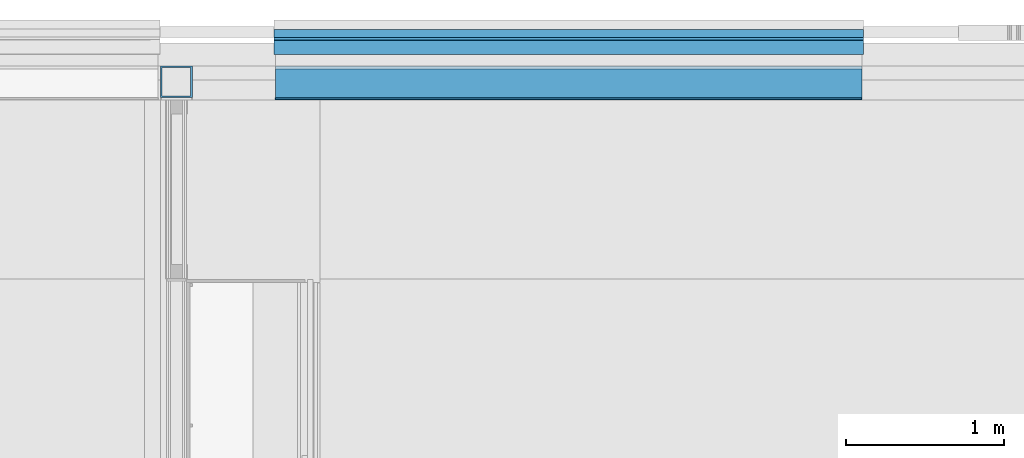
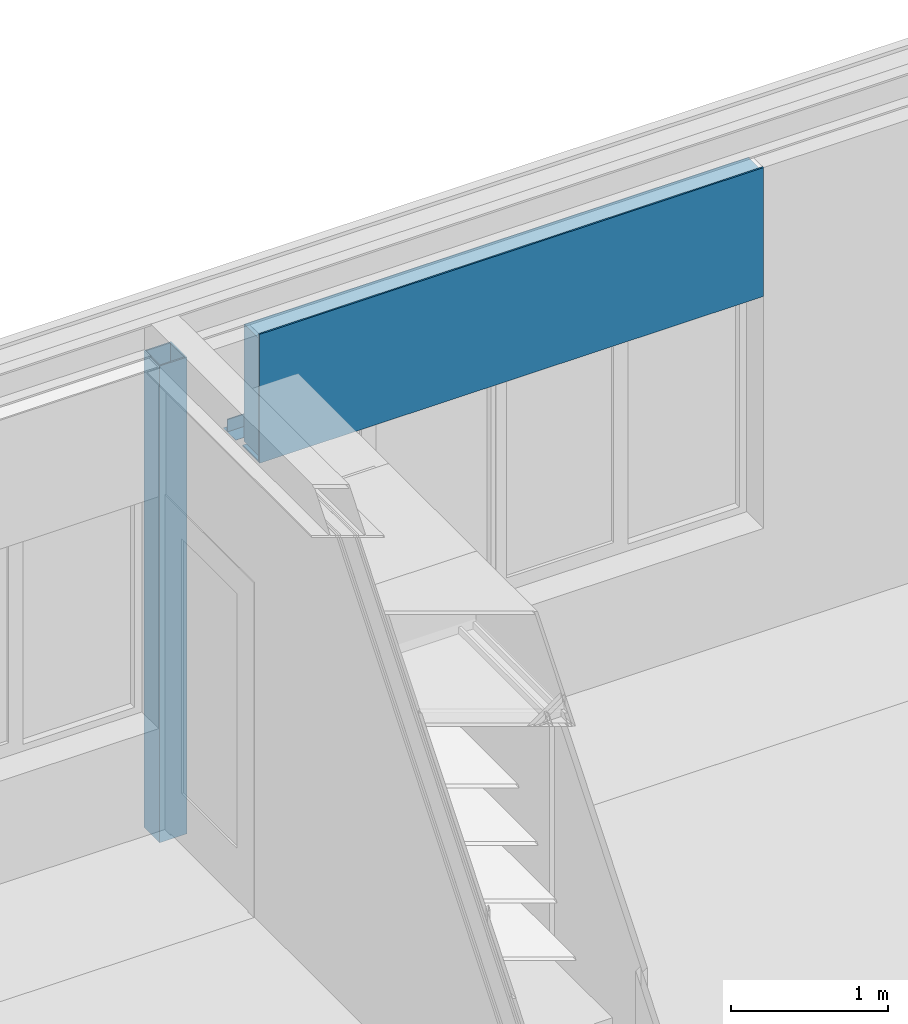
# One storey, part 82 of 137: 6 building element parts, 3 elements without a shape of their own.
"""IFC2X3 building model written with IfcOpenShell, lengths in millimetres."""

from ifc_helpers import new_model, entity, si_unit, converted_unit, derived_unit, money_unit, direction, frame, origin_with_axes, place, context, subcontext, project, spatial, faceted_brep, material, type_object, element, aggregate, save


model = new_model("IFC2X3")

# Units and contexts
model_context = context("Model", 3, precision=0.01, world=origin_with_axes(), true_north=direction((0.0, 1.0)))
body_context = subcontext(model_context, "Body", "Model", "MODEL_VIEW")
ifc_project = project(units=[si_unit("LENGTHUNIT", "METRE", prefix="MILLI"), si_unit("AREAUNIT", "SQUARE_METRE"), si_unit("VOLUMEUNIT", "CUBIC_METRE"), converted_unit("PLANEANGLEUNIT", "DEGREE", entity("IfcPlaneAngleMeasure", 0.0174532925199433), si_unit("PLANEANGLEUNIT", "RADIAN"), dimensions=[0, 0, 0, 0, 0, 0, 0]), money_unit("EUR"), converted_unit("TIMEUNIT", "Year", entity("IfcTimeMeasure", 31556926.0), si_unit("TIMEUNIT", "SECOND"), dimensions=[0, 0, 1, 0, 0, 0, 0]), si_unit("MASSUNIT", "GRAM", prefix="KILO"), si_unit("THERMODYNAMICTEMPERATUREUNIT", "DEGREE_CELSIUS"), si_unit("LUMINOUSINTENSITYUNIT", "LUMEN"), si_unit("ENERGYUNIT", "JOULE", prefix="MEGA"), derived_unit("THERMALCONDUCTANCEUNIT", [(si_unit("POWERUNIT", "WATT"), 1), (si_unit("LENGTHUNIT", "METRE"), -1), (si_unit("THERMODYNAMICTEMPERATUREUNIT", "KELVIN"), -1)]), derived_unit("SPECIFICHEATCAPACITYUNIT", [(si_unit("ENERGYUNIT", "JOULE"), 1), (si_unit("MASSUNIT", "GRAM", prefix="KILO"), -1), (si_unit("THERMODYNAMICTEMPERATUREUNIT", "KELVIN"), -1)]), derived_unit("MASSDENSITYUNIT", [(si_unit("MASSUNIT", "GRAM", prefix="KILO"), 1), (si_unit("VOLUMEUNIT", "CUBIC_METRE"), -1)])], contexts=[model_context])

# Site, building, storey
site_placement = place(None, origin_with_axes())
site = spatial("IfcSite", under=ifc_project, at=site_placement, Name="Site", CompositionType="ELEMENT")
building_placement = place(site_placement, origin_with_axes())
building = spatial("IfcBuilding", under=site, at=building_placement, Name="Naam gebouw", CompositionType="ELEMENT")
storey_placement = place(building_placement, frame((0.0, 0.0, 3960.0), z_axis=(0.0, 0.0, 1.0), x_axis=(1.0, 0.0, 0.0)))
storey = spatial("IfcBuildingStorey", under=building, at=storey_placement, Name="1e verdieping", CompositionType="ELEMENT", Elevation=3960.0)

# Column, building element part
column_type = type_object("IfcColumnType", Name="200X200X10 200 x 200", PredefinedType="COLUMN")
column_placement = place(storey_placement, frame((8850.000000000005, 29075.0, -100.0000000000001), z_axis=(0.0, 0.0, 1.0), x_axis=(1.0, 0.0, 0.0)))
column = element("IfcColumn", 1, at=column_placement, inside=storey, type_object=column_type, Name="28_Kolom-x", ObjectType="COLUMN")
ifc_material_1 = material(Name="Metaal - Staal C")
building_element_part_1_placement = place(column_placement, origin_with_axes())
building_element_part_1 = element("IfcBuildingElementPart", 2, at=building_element_part_1_placement, material=ifc_material_1, Name="Metaal - Staal C", context=body_context, shape_type="Brep", body=[
    faceted_brep([(-99.99999999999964, -100.0000000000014, 0.0), (99.99999999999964, -100.0000000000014, 0.0), (99.99999999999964, -100.0000000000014, 3699.999999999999), (-99.99999999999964, -100.0000000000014, 3699.999999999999), (-99.99999999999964, 100.0000000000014, 0.0), (99.99999999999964, 100.0000000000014, 0.0), (-89.99999999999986, -89.99999999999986, 0.0), (89.99999999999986, -89.99999999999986, 0.0), (89.99999999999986, 89.99999999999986, 0.0), (-89.99999999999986, 89.99999999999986, 0.0), (99.99999999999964, 100.0000000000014, 3699.999999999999), (-99.99999999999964, 100.0000000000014, 3699.999999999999), (-89.99999999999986, -89.99999999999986, 3699.999999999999), (-89.99999999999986, 89.99999999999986, 3699.999999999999), (89.99999999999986, 89.99999999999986, 3699.999999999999), (89.99999999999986, -89.99999999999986, 3699.999999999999)], [[[0, 1, 2, 3]], [[0, 4, 5, 1], [6, 7, 8, 9]], [[1, 5, 10, 2]], [[3, 2, 10, 11], [12, 13, 14, 15]], [[4, 0, 3, 11]], [[5, 4, 11, 10]], [[7, 6, 12, 15]], [[8, 7, 15, 14]], [[9, 8, 14, 13]], [[6, 9, 13, 12]]]),
])
aggregate(column, [building_element_part_1])

# Beam, building element parts
beam_type_1 = type_object("IfcBeamType", Name="41 Latei/geveldrager 158 x 112", PredefinedType="BEAM")
beam_1_placement = place(storey_placement, frame((9464.999424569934, 29354.99997630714, 2610.0), z_axis=(0.0, 0.0, 1.0), x_axis=(0.0, -1.0, 0.0)))
beam_1 = element("IfcBeam", 3, at=beam_1_placement, inside=storey, type_object=beam_type_1, Name="_Regenwaterafvoer-x", ObjectType="BEAM")
building_element_part_2_placement = place(beam_1_placement, origin_with_axes())
building_element_part_2 = element("IfcBuildingElementPart", 4, at=building_element_part_2_placement, material=ifc_material_1, Name="Metaal - Staal C", context=body_context, shape_type="Brep", body=[
    faceted_brep([(-50.00000000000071, 3720.0, 6.55651533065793e-07), (-50.00000000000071, 3720.0, -3.000000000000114), (-50.00000000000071, 0.0, -3.000000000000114), (-50.00000000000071, 0.0, 6.55651533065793e-07), (-5.9603877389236e-08, 3720.0, 6.55651533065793e-07), (-5.9603877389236e-08, 3720.0, 99.3417707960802), (16.54654975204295, 3720.0, 108.8949262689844), (18.04655007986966, 3720.0, 106.2968498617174), (3.000000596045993, 3720.0, 96.99999988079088), (3.000000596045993, 3720.0, 6.55651533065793e-07), (3.000000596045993, 3720.0, -3.000000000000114), (3.000000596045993, 0.0, -3.000000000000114), (3.000000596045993, 0.0, 6.55651533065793e-07), (3.000000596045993, 0.0, 96.99999988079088), (18.04655007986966, 0.0, 106.2968498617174), (16.54654975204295, 0.0, 108.8949262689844), (-5.9603877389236e-08, 0.0, 99.3417707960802), (-5.9603877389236e-08, 0.0, 6.55651533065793e-07)], [[[0, 1, 2, 3]], [[0, 4, 5, 6, 7, 8, 9, 10, 1]], [[1, 10, 11, 2]], [[3, 2, 11, 12, 13, 14, 15, 16, 17]], [[4, 0, 3, 17]], [[5, 4, 17, 16]], [[6, 5, 16, 15]], [[7, 6, 15, 14]], [[8, 7, 14, 13]], [[9, 8, 13, 12]], [[10, 9, 12, 11]]]),
])
building_element_part_3_placement = place(beam_1_placement, origin_with_axes())
building_element_part_3 = element("IfcBuildingElementPart", 5, at=building_element_part_3_placement, material=ifc_material_1, Name="Metaal - Staal C", context=body_context, shape_type="Brep", body=[
    faceted_brep([(3.000000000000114, 3720.0, -3.000000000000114), (108.0000000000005, 3720.0, -3.000000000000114), (108.0000000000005, 0.0, -3.000000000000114), (3.000000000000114, 0.0, -3.000000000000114), (3.000000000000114, 3720.0, 0.0), (108.0000000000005, 3720.0, 0.0), (108.0000000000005, 0.0, 0.0), (3.000000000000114, 0.0, 0.0)], [[[0, 1, 2, 3]], [[0, 4, 5, 1]], [[1, 5, 6, 2]], [[3, 2, 6, 7]], [[4, 0, 3, 7]], [[5, 4, 7, 6]]]),
])
aggregate(beam_1, [building_element_part_2, building_element_part_3])

beam_type_2 = type_object("IfcBeamType", Name="31 HSB boven kozijnen 214 x 1000", PredefinedType="BEAM")
beam_2_placement = place(storey_placement, frame((9474.999424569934, 28961.0, 2600.000000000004), z_axis=(0.0, 0.0, 1.0), x_axis=(0.0, -1.0, 0.0)))
beam_2 = element("IfcBeam", 6, at=beam_2_placement, inside=storey, type_object=beam_type_2, Name="28_Balk-x", ObjectType="BEAM")
ifc_material_2 = material(Name="Gipsplaat")
building_element_part_4_placement = place(beam_2_placement, origin_with_axes())
building_element_part_4 = element("IfcBuildingElementPart", 7, at=building_element_part_4_placement, material=ifc_material_2, Name="Gipsplaat", context=body_context, shape_type="Brep", body=[
    faceted_brep([(-11.99999661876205, 3699.999999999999, 0.0), (9.341707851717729e-06, 3699.999999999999, 0.0), (9.341711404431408e-06, 0.0, 0.0), (-11.99999661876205, 0.0, 0.0), (-11.99999661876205, 3699.999999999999, 999.9999999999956), (9.341707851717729e-06, 3699.999999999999, 999.9999999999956), (9.341707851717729e-06, 0.0, 999.9999999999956), (-11.99999661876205, 0.0, 999.9999999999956)], [[[0, 1, 2, 3]], [[0, 4, 5, 1]], [[1, 5, 6, 2]], [[3, 2, 6, 7]], [[4, 0, 3, 7]], [[5, 4, 7, 6]]]),
])
ifc_material_3 = material(Name="ALG - ISOLATIE")
building_element_part_5_placement = place(beam_2_placement, origin_with_axes())
building_element_part_5 = element("IfcBuildingElementPart", 8, at=building_element_part_5_placement, material=ifc_material_3, Name="ALG - ISOLATIE", context=body_context, shape_type="Brep", body=[
    faceted_brep([(-12.00000000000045, 3699.999999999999, 49.99999999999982), (-12.00000000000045, 3699.999999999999, 961.9999999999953), (-12.00000000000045, 0.0, 961.9999999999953), (-12.00000000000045, 0.0, 49.99999999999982), (-196.0000000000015, 3699.999999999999, 49.99999999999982), (-196.0000000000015, 3699.999999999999, 961.9999999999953), (-196.0000000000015, 0.0, 961.9999999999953), (-195.999999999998, 0.0, 49.99999999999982)], [[[0, 1, 2, 3]], [[0, 4, 5, 1]], [[1, 5, 6, 2]], [[3, 2, 6, 7]], [[4, 0, 3, 7]], [[5, 4, 7, 6]]]),
])
building_element_part_6_placement = place(beam_2_placement, origin_with_axes())
building_element_part_6 = element("IfcBuildingElementPart", 9, at=building_element_part_6_placement, material=ifc_material_2, Name="Gipsplaat", context=body_context, shape_type="Brep", body=[
    faceted_brep([(-214.0000025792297, 3699.999999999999, 12.00000596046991), (-214.0000025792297, 3699.999999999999, 0.0), (-214.0000025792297, 0.0, 0.0), (-214.0000025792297, 0.0, 12.00000596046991), (-11.99999661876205, 3699.999999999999, 12.00000596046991), (-11.99999661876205, 3699.999999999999, 0.0), (-11.99999661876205, 0.0, 0.0), (-11.99999661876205, 0.0, 12.00000596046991)], [[[0, 1, 2, 3]], [[0, 4, 5, 1]], [[1, 5, 6, 2]], [[3, 2, 6, 7]], [[4, 0, 3, 7]], [[5, 4, 7, 6]]]),
])
aggregate(beam_2, [building_element_part_4, building_element_part_5, building_element_part_6])

save(model, "model.ifc")
